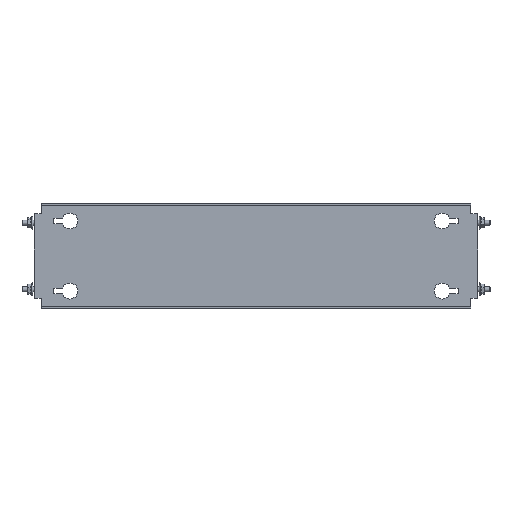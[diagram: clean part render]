
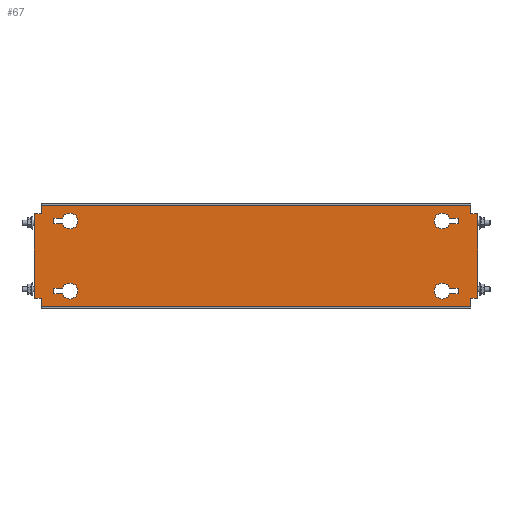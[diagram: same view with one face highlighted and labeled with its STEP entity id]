
A CAD part, top view. The second image highlights one B-rep face of the part: STEP entity #67.
In plain terms, the highlighted planar face has unit normal (0, 0, 1).
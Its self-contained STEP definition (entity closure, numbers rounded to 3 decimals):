
#67 = ADVANCED_FACE('',(#68,#103,#138,#300,#335),#370,.T.);
#68 = FACE_BOUND('',#69,.T.);
#69 = EDGE_LOOP('',(#70,#80,#88,#96));
#70 = ORIENTED_EDGE('',*,*,#71,.T.);
#71 = EDGE_CURVE('',#72,#74,#76,.T.);
#72 = VERTEX_POINT('',#73);
#73 = CARTESIAN_POINT('',(218.393,42.75,2.));
#74 = VERTEX_POINT('',#75);
#75 = CARTESIAN_POINT('',(228.,42.75,2.));
#76 = LINE('',#77,#78);
#77 = CARTESIAN_POINT('',(227.,42.75,2.));
#78 = VECTOR('',#79,1.);
#79 = DIRECTION('',(1.,0.,0.));
#80 = ORIENTED_EDGE('',*,*,#81,.T.);
#81 = EDGE_CURVE('',#74,#82,#84,.T.);
#82 = VERTEX_POINT('',#83);
#83 = CARTESIAN_POINT('',(228.,36.25,2.));
#84 = LINE('',#85,#86);
#85 = CARTESIAN_POINT('',(228.,42.75,2.));
#86 = VECTOR('',#87,1.);
#87 = DIRECTION('',(0.,-1.,0.));
#88 = ORIENTED_EDGE('',*,*,#89,.T.);
#89 = EDGE_CURVE('',#82,#90,#92,.T.);
#90 = VERTEX_POINT('',#91);
#91 = CARTESIAN_POINT('',(218.393,36.25,2.));
#92 = LINE('',#93,#94);
#93 = CARTESIAN_POINT('',(227.,36.25,2.));
#94 = VECTOR('',#95,1.);
#95 = DIRECTION('',(-1.,0.,0.));
#96 = ORIENTED_EDGE('',*,*,#97,.T.);
#97 = EDGE_CURVE('',#90,#72,#98,.T.);
#98 = CIRCLE('',#99,9.);
#99 = AXIS2_PLACEMENT_3D('',#100,#101,#102);
#100 = CARTESIAN_POINT('',(210.,39.5,2.));
#101 = DIRECTION('',(0.,0.,-1.));
#102 = DIRECTION('',(1.,0.,0.));
#103 = FACE_BOUND('',#104,.T.);
#104 = EDGE_LOOP('',(#105,#115,#123,#131));
#105 = ORIENTED_EDGE('',*,*,#106,.T.);
#106 = EDGE_CURVE('',#107,#109,#111,.T.);
#107 = VERTEX_POINT('',#108);
#108 = CARTESIAN_POINT('',(-218.393,-42.75,2.));
#109 = VERTEX_POINT('',#110);
#110 = CARTESIAN_POINT('',(-228.,-42.75,2.));
#111 = LINE('',#112,#113);
#112 = CARTESIAN_POINT('',(-227.,-42.75,2.));
#113 = VECTOR('',#114,1.);
#114 = DIRECTION('',(-1.,0.,0.));
#115 = ORIENTED_EDGE('',*,*,#116,.T.);
#116 = EDGE_CURVE('',#109,#117,#119,.T.);
#117 = VERTEX_POINT('',#118);
#118 = CARTESIAN_POINT('',(-228.,-36.25,2.));
#119 = LINE('',#120,#121);
#120 = CARTESIAN_POINT('',(-228.,-42.75,2.));
#121 = VECTOR('',#122,1.);
#122 = DIRECTION('',(0.,1.,0.));
#123 = ORIENTED_EDGE('',*,*,#124,.T.);
#124 = EDGE_CURVE('',#117,#125,#127,.T.);
#125 = VERTEX_POINT('',#126);
#126 = CARTESIAN_POINT('',(-218.393,-36.25,2.));
#127 = LINE('',#128,#129);
#128 = CARTESIAN_POINT('',(-227.,-36.25,2.));
#129 = VECTOR('',#130,1.);
#130 = DIRECTION('',(1.,-0.,-0.));
#131 = ORIENTED_EDGE('',*,*,#132,.T.);
#132 = EDGE_CURVE('',#125,#107,#133,.T.);
#133 = CIRCLE('',#134,9.);
#134 = AXIS2_PLACEMENT_3D('',#135,#136,#137);
#135 = CARTESIAN_POINT('',(-210.,-39.5,2.));
#136 = DIRECTION('',(0.,0.,-1.));
#137 = DIRECTION('',(-1.,0.,0.));
#138 = FACE_BOUND('',#139,.T.);
#139 = EDGE_LOOP('',(#140,#150,#158,#166,#174,#182,#190,#198,#206,#214,
    #222,#230,#238,#246,#254,#262,#270,#278,#286,#294));
#140 = ORIENTED_EDGE('',*,*,#141,.F.);
#141 = EDGE_CURVE('',#142,#144,#146,.T.);
#142 = VERTEX_POINT('',#143);
#143 = CARTESIAN_POINT('',(-247.4,47.5,2.));
#144 = VERTEX_POINT('',#145);
#145 = CARTESIAN_POINT('',(-242.,47.5,2.));
#146 = LINE('',#147,#148);
#147 = CARTESIAN_POINT('',(-248.,47.5,2.));
#148 = VECTOR('',#149,1.);
#149 = DIRECTION('',(1.,0.,-0.));
#150 = ORIENTED_EDGE('',*,*,#151,.T.);
#151 = EDGE_CURVE('',#142,#152,#154,.T.);
#152 = VERTEX_POINT('',#153);
#153 = CARTESIAN_POINT('',(-250.,47.5,2.));
#154 = LINE('',#155,#156);
#155 = CARTESIAN_POINT('',(-247.4,47.5,2.));
#156 = VECTOR('',#157,1.);
#157 = DIRECTION('',(-1.,0.,0.));
#158 = ORIENTED_EDGE('',*,*,#159,.F.);
#159 = EDGE_CURVE('',#160,#152,#162,.T.);
#160 = VERTEX_POINT('',#161);
#161 = CARTESIAN_POINT('',(-250.,-47.5,2.));
#162 = LINE('',#163,#164);
#163 = CARTESIAN_POINT('',(-250.,-57.5,2.));
#164 = VECTOR('',#165,1.);
#165 = DIRECTION('',(-0.,1.,-0.));
#166 = ORIENTED_EDGE('',*,*,#167,.F.);
#167 = EDGE_CURVE('',#168,#160,#170,.T.);
#168 = VERTEX_POINT('',#169);
#169 = CARTESIAN_POINT('',(-247.4,-47.5,2.));
#170 = LINE('',#171,#172);
#171 = CARTESIAN_POINT('',(-242.,-47.5,2.));
#172 = VECTOR('',#173,1.);
#173 = DIRECTION('',(-1.,-0.,-0.));
#174 = ORIENTED_EDGE('',*,*,#175,.T.);
#175 = EDGE_CURVE('',#168,#176,#178,.T.);
#176 = VERTEX_POINT('',#177);
#177 = CARTESIAN_POINT('',(-242.,-47.5,2.));
#178 = LINE('',#179,#180);
#179 = CARTESIAN_POINT('',(-248.,-47.5,2.));
#180 = VECTOR('',#181,1.);
#181 = DIRECTION('',(1.,0.,-0.));
#182 = ORIENTED_EDGE('',*,*,#183,.T.);
#183 = EDGE_CURVE('',#176,#184,#186,.T.);
#184 = VERTEX_POINT('',#185);
#185 = CARTESIAN_POINT('',(-242.,-56.9,2.));
#186 = LINE('',#187,#188);
#187 = CARTESIAN_POINT('',(-242.,57.5,2.));
#188 = VECTOR('',#189,1.);
#189 = DIRECTION('',(0.,-1.,0.));
#190 = ORIENTED_EDGE('',*,*,#191,.T.);
#191 = EDGE_CURVE('',#184,#192,#194,.T.);
#192 = VERTEX_POINT('',#193);
#193 = CARTESIAN_POINT('',(-242.,-57.5,2.));
#194 = LINE('',#195,#196);
#195 = CARTESIAN_POINT('',(-242.,-56.9,2.));
#196 = VECTOR('',#197,1.);
#197 = DIRECTION('',(-0.,-1.,-0.));
#198 = ORIENTED_EDGE('',*,*,#199,.T.);
#199 = EDGE_CURVE('',#192,#200,#202,.T.);
#200 = VERTEX_POINT('',#201);
#201 = CARTESIAN_POINT('',(242.,-57.5,2.));
#202 = LINE('',#203,#204);
#203 = CARTESIAN_POINT('',(242.,-57.5,2.));
#204 = VECTOR('',#205,1.);
#205 = DIRECTION('',(1.,0.,0.));
#206 = ORIENTED_EDGE('',*,*,#207,.F.);
#207 = EDGE_CURVE('',#208,#200,#210,.T.);
#208 = VERTEX_POINT('',#209);
#209 = CARTESIAN_POINT('',(242.,-56.9,2.));
#210 = LINE('',#211,#212);
#211 = CARTESIAN_POINT('',(242.,-57.5,2.));
#212 = VECTOR('',#213,1.);
#213 = DIRECTION('',(0.,-1.,0.));
#214 = ORIENTED_EDGE('',*,*,#215,.T.);
#215 = EDGE_CURVE('',#208,#216,#218,.T.);
#216 = VERTEX_POINT('',#217);
#217 = CARTESIAN_POINT('',(242.,-47.5,2.));
#218 = LINE('',#219,#220);
#219 = CARTESIAN_POINT('',(242.,57.5,2.));
#220 = VECTOR('',#221,1.);
#221 = DIRECTION('',(0.,1.,-0.));
#222 = ORIENTED_EDGE('',*,*,#223,.F.);
#223 = EDGE_CURVE('',#224,#216,#226,.T.);
#224 = VERTEX_POINT('',#225);
#225 = CARTESIAN_POINT('',(247.4,-47.5,2.));
#226 = LINE('',#227,#228);
#227 = CARTESIAN_POINT('',(248.,-47.5,2.));
#228 = VECTOR('',#229,1.);
#229 = DIRECTION('',(-1.,0.,-0.));
#230 = ORIENTED_EDGE('',*,*,#231,.T.);
#231 = EDGE_CURVE('',#224,#232,#234,.T.);
#232 = VERTEX_POINT('',#233);
#233 = CARTESIAN_POINT('',(250.,-47.5,2.));
#234 = LINE('',#235,#236);
#235 = CARTESIAN_POINT('',(247.4,-47.5,2.));
#236 = VECTOR('',#237,1.);
#237 = DIRECTION('',(1.,-0.,0.));
#238 = ORIENTED_EDGE('',*,*,#239,.F.);
#239 = EDGE_CURVE('',#240,#232,#242,.T.);
#240 = VERTEX_POINT('',#241);
#241 = CARTESIAN_POINT('',(250.,47.5,2.));
#242 = LINE('',#243,#244);
#243 = CARTESIAN_POINT('',(250.,-57.5,2.));
#244 = VECTOR('',#245,1.);
#245 = DIRECTION('',(-0.,-1.,0.));
#246 = ORIENTED_EDGE('',*,*,#247,.F.);
#247 = EDGE_CURVE('',#248,#240,#250,.T.);
#248 = VERTEX_POINT('',#249);
#249 = CARTESIAN_POINT('',(247.4,47.5,2.));
#250 = LINE('',#251,#252);
#251 = CARTESIAN_POINT('',(-242.,47.5,2.));
#252 = VECTOR('',#253,1.);
#253 = DIRECTION('',(1.,-0.,0.));
#254 = ORIENTED_EDGE('',*,*,#255,.T.);
#255 = EDGE_CURVE('',#248,#256,#258,.T.);
#256 = VERTEX_POINT('',#257);
#257 = CARTESIAN_POINT('',(242.,47.5,2.));
#258 = LINE('',#259,#260);
#259 = CARTESIAN_POINT('',(248.,47.5,2.));
#260 = VECTOR('',#261,1.);
#261 = DIRECTION('',(-1.,0.,-0.));
#262 = ORIENTED_EDGE('',*,*,#263,.T.);
#263 = EDGE_CURVE('',#256,#264,#266,.T.);
#264 = VERTEX_POINT('',#265);
#265 = CARTESIAN_POINT('',(242.,56.9,2.));
#266 = LINE('',#267,#268);
#267 = CARTESIAN_POINT('',(242.,57.5,2.));
#268 = VECTOR('',#269,1.);
#269 = DIRECTION('',(0.,1.,-0.));
#270 = ORIENTED_EDGE('',*,*,#271,.T.);
#271 = EDGE_CURVE('',#264,#272,#274,.T.);
#272 = VERTEX_POINT('',#273);
#273 = CARTESIAN_POINT('',(242.,57.5,2.));
#274 = LINE('',#275,#276);
#275 = CARTESIAN_POINT('',(242.,56.9,2.));
#276 = VECTOR('',#277,1.);
#277 = DIRECTION('',(-0.,1.,-0.));
#278 = ORIENTED_EDGE('',*,*,#279,.T.);
#279 = EDGE_CURVE('',#272,#280,#282,.T.);
#280 = VERTEX_POINT('',#281);
#281 = CARTESIAN_POINT('',(-242.,57.5,2.));
#282 = LINE('',#283,#284);
#283 = CARTESIAN_POINT('',(-242.,57.5,2.));
#284 = VECTOR('',#285,1.);
#285 = DIRECTION('',(-1.,0.,0.));
#286 = ORIENTED_EDGE('',*,*,#287,.F.);
#287 = EDGE_CURVE('',#288,#280,#290,.T.);
#288 = VERTEX_POINT('',#289);
#289 = CARTESIAN_POINT('',(-242.,56.9,2.));
#290 = LINE('',#291,#292);
#291 = CARTESIAN_POINT('',(-242.,-57.5,2.));
#292 = VECTOR('',#293,1.);
#293 = DIRECTION('',(0.,1.,-0.));
#294 = ORIENTED_EDGE('',*,*,#295,.T.);
#295 = EDGE_CURVE('',#288,#144,#296,.T.);
#296 = LINE('',#297,#298);
#297 = CARTESIAN_POINT('',(-242.,57.5,2.));
#298 = VECTOR('',#299,1.);
#299 = DIRECTION('',(0.,-1.,0.));
#300 = FACE_BOUND('',#301,.T.);
#301 = EDGE_LOOP('',(#302,#312,#320,#328));
#302 = ORIENTED_EDGE('',*,*,#303,.F.);
#303 = EDGE_CURVE('',#304,#306,#308,.T.);
#304 = VERTEX_POINT('',#305);
#305 = CARTESIAN_POINT('',(228.,-36.25,2.));
#306 = VERTEX_POINT('',#307);
#307 = CARTESIAN_POINT('',(218.393,-36.25,2.));
#308 = LINE('',#309,#310);
#309 = CARTESIAN_POINT('',(218.393,-36.25,2.));
#310 = VECTOR('',#311,1.);
#311 = DIRECTION('',(-1.,0.,0.));
#312 = ORIENTED_EDGE('',*,*,#313,.F.);
#313 = EDGE_CURVE('',#314,#304,#316,.T.);
#314 = VERTEX_POINT('',#315);
#315 = CARTESIAN_POINT('',(228.,-42.75,2.));
#316 = LINE('',#317,#318);
#317 = CARTESIAN_POINT('',(228.,-36.25,2.));
#318 = VECTOR('',#319,1.);
#319 = DIRECTION('',(0.,1.,0.));
#320 = ORIENTED_EDGE('',*,*,#321,.F.);
#321 = EDGE_CURVE('',#322,#314,#324,.T.);
#322 = VERTEX_POINT('',#323);
#323 = CARTESIAN_POINT('',(218.393,-42.75,2.));
#324 = LINE('',#325,#326);
#325 = CARTESIAN_POINT('',(227.,-42.75,2.));
#326 = VECTOR('',#327,1.);
#327 = DIRECTION('',(1.,0.,0.));
#328 = ORIENTED_EDGE('',*,*,#329,.F.);
#329 = EDGE_CURVE('',#306,#322,#330,.T.);
#330 = CIRCLE('',#331,9.);
#331 = AXIS2_PLACEMENT_3D('',#332,#333,#334);
#332 = CARTESIAN_POINT('',(210.,-39.5,2.));
#333 = DIRECTION('',(0.,-0.,1.));
#334 = DIRECTION('',(1.,0.,0.));
#335 = FACE_BOUND('',#336,.T.);
#336 = EDGE_LOOP('',(#337,#347,#355,#363));
#337 = ORIENTED_EDGE('',*,*,#338,.F.);
#338 = EDGE_CURVE('',#339,#341,#343,.T.);
#339 = VERTEX_POINT('',#340);
#340 = CARTESIAN_POINT('',(-228.,36.25,2.));
#341 = VERTEX_POINT('',#342);
#342 = CARTESIAN_POINT('',(-218.393,36.25,2.));
#343 = LINE('',#344,#345);
#344 = CARTESIAN_POINT('',(-218.393,36.25,2.));
#345 = VECTOR('',#346,1.);
#346 = DIRECTION('',(1.,0.,0.));
#347 = ORIENTED_EDGE('',*,*,#348,.F.);
#348 = EDGE_CURVE('',#349,#339,#351,.T.);
#349 = VERTEX_POINT('',#350);
#350 = CARTESIAN_POINT('',(-228.,42.75,2.));
#351 = LINE('',#352,#353);
#352 = CARTESIAN_POINT('',(-228.,36.25,2.));
#353 = VECTOR('',#354,1.);
#354 = DIRECTION('',(0.,-1.,0.));
#355 = ORIENTED_EDGE('',*,*,#356,.F.);
#356 = EDGE_CURVE('',#357,#349,#359,.T.);
#357 = VERTEX_POINT('',#358);
#358 = CARTESIAN_POINT('',(-218.393,42.75,2.));
#359 = LINE('',#360,#361);
#360 = CARTESIAN_POINT('',(-227.,42.75,2.));
#361 = VECTOR('',#362,1.);
#362 = DIRECTION('',(-1.,0.,0.));
#363 = ORIENTED_EDGE('',*,*,#364,.F.);
#364 = EDGE_CURVE('',#341,#357,#365,.T.);
#365 = CIRCLE('',#366,9.);
#366 = AXIS2_PLACEMENT_3D('',#367,#368,#369);
#367 = CARTESIAN_POINT('',(-210.,39.5,2.));
#368 = DIRECTION('',(0.,-0.,1.));
#369 = DIRECTION('',(-1.,0.,0.));
#370 = PLANE('',#371);
#371 = AXIS2_PLACEMENT_3D('',#372,#373,#374);
#372 = CARTESIAN_POINT('',(-242.,-57.5,2.));
#373 = DIRECTION('',(-0.,0.,1.));
#374 = DIRECTION('',(1.,0.,0.));
